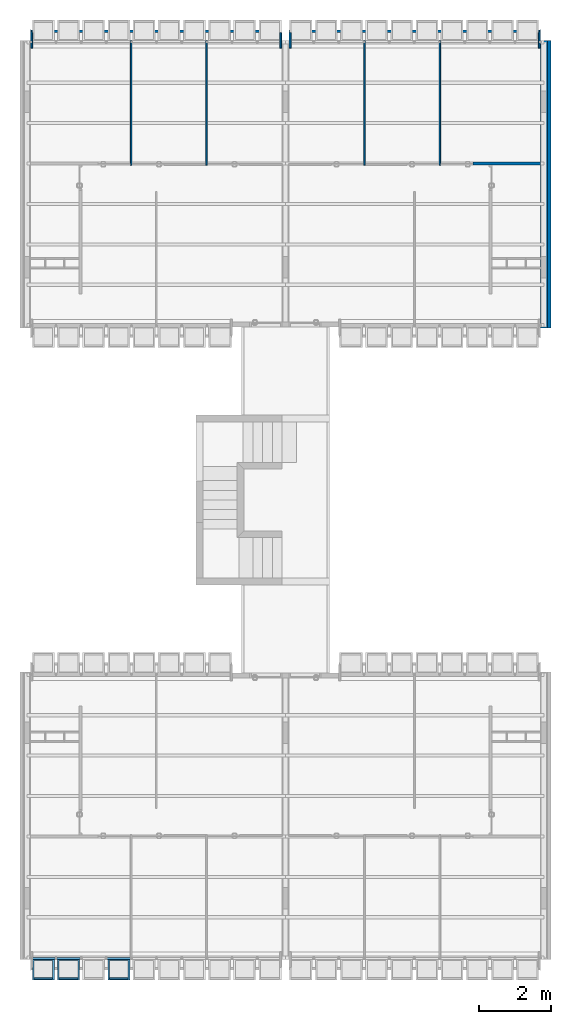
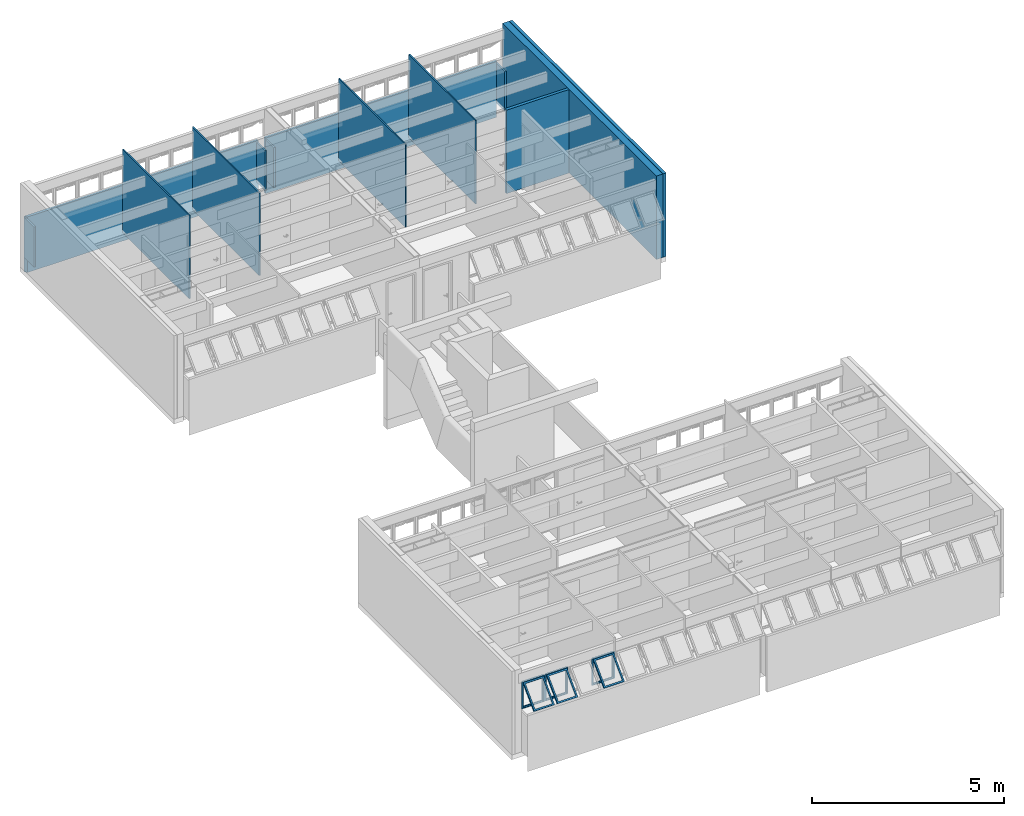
# One storey, part 25 of 37: 13 walls, 3 building element parts, 4 elements without a shape of their own.
"""IFC2X3 building model written with IfcOpenShell, lengths in millimetres."""

from ifc_helpers import new_model, entity, si_unit, converted_unit, derived_unit, money_unit, direction, frame, origin_with_axes, place, context, subcontext, project, spatial, polyline, outline, extrude, faceted_brep, source, transform, mapped, material, layer, layer_set, layer_usage, type_object, element, aggregate, save


model = new_model("IFC2X3")

# Units and contexts
model_context = context("Model", 3, precision=0.01, world=origin_with_axes(), true_north=direction((0.0, 1.0)))
body_context = subcontext(model_context, "Body", "Model", "MODEL_VIEW")
ifc_project = project(units=[si_unit("LENGTHUNIT", "METRE", prefix="MILLI"), si_unit("AREAUNIT", "SQUARE_METRE"), si_unit("VOLUMEUNIT", "CUBIC_METRE"), converted_unit("PLANEANGLEUNIT", "DEGREE", entity("IfcPlaneAngleMeasure", 0.0174532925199), si_unit("PLANEANGLEUNIT", "RADIAN"), dimensions=[0, 0, 0, 0, 0, 0, 0]), money_unit("USD"), converted_unit("TIMEUNIT", "Year", entity("IfcTimeMeasure", 31556926.0), si_unit("TIMEUNIT", "SECOND"), dimensions=[0, 0, 1, 0, 0, 0, 0]), si_unit("MASSUNIT", "GRAM", prefix="KILO"), si_unit("THERMODYNAMICTEMPERATUREUNIT", "DEGREE_CELSIUS"), si_unit("LUMINOUSINTENSITYUNIT", "LUMEN"), si_unit("ENERGYUNIT", "JOULE", prefix="MEGA"), derived_unit("THERMALCONDUCTANCEUNIT", [(si_unit("POWERUNIT", "WATT"), 1), (si_unit("LENGTHUNIT", "METRE"), -1), (si_unit("THERMODYNAMICTEMPERATUREUNIT", "KELVIN"), -1)]), derived_unit("SPECIFICHEATCAPACITYUNIT", [(si_unit("ENERGYUNIT", "JOULE"), 1), (si_unit("MASSUNIT", "GRAM", prefix="KILO"), -1), (si_unit("THERMODYNAMICTEMPERATUREUNIT", "KELVIN"), -1)]), derived_unit("MASSDENSITYUNIT", [(si_unit("MASSUNIT", "GRAM", prefix="KILO"), 1), (si_unit("VOLUMEUNIT", "CUBIC_METRE"), -1)])], contexts=[model_context])

# Site, building, storey
site_placement = place(None, origin_with_axes())
site = spatial("IfcSite", under=ifc_project, at=site_placement, Name="Local", CompositionType="ELEMENT")
building_placement = place(site_placement, origin_with_axes())
building = spatial("IfcBuilding", under=site, at=building_placement, Name="Construção", CompositionType="ELEMENT")
storey_placement = place(building_placement, origin_with_axes())
storey = spatial("IfcBuildingStorey", under=building, at=storey_placement, Name="Primeiro Pavimento", CompositionType="ELEMENT", Elevation=0.0)

# Walls
ifc_material_1 = material(Name="GENÉRICO - VEDAÇÃO EXTERNA")
ifc_layer_1 = layer(ifc_material_1, 190.0, ventilated="UNKNOWN")
ifc_layer_set_1 = layer_set([ifc_layer_1], Name="GENÉRICO - VEDAÇÃO EXTERNA 190")
ifc_layer_usage_1 = layer_usage(ifc_layer_set_1, "AXIS2", "NEGATIVE", 0.0)
wall_type_1 = type_object("IfcWallType", Name="GENÉRICO - VEDAÇÃO EXTERNA 190", PredefinedType="NOTDEFINED")
wall_1_placement = place(storey_placement, frame((14480.0, 17860.0, 0.0), z_axis=(0.0, 0.0, 1.0), x_axis=(0.0, 1.0, 0.0)))
element("IfcWallStandardCase", 1, at=wall_1_placement, inside=storey, type_object=wall_type_1, material=ifc_layer_usage_1, Name="APTO4-PAREDE-013", context=body_context, shape_type="SweptSolid", body=[
    extrude(outline(polyline([(0.0, -190.0), (8000.0, -190.0), (8000.0, 0.0), (0.0, 0.0), (0.0, -190.0)])), origin_with_axes(), (0.0, 0.0, 1.0), 2650.0),
])
ifc_layer_2 = layer(ifc_material_1, 40.0, ventilated="UNKNOWN")
ifc_layer_set_2 = layer_set([ifc_layer_2], Name="GENÉRICO - VEDAÇÃO EXTERNA 40")
ifc_layer_usage_2 = layer_usage(ifc_layer_set_2, "AXIS2", "NEGATIVE", 0.0)
wall_type_2 = type_object("IfcWallType", Name="GENÉRICO - VEDAÇÃO EXTERNA 40", PredefinedType="NOTDEFINED")
wall_2_placement = place(storey_placement, frame((9560.0, 22395.0, 0.0), z_axis=(0.0, 0.0, 1.0), x_axis=(0.0, 1.0, 0.0)))
element("IfcWallStandardCase", 2, at=wall_2_placement, inside=storey, type_object=wall_type_2, material=ifc_layer_usage_2, Name="APTO4-PAREDE-005", context=body_context, shape_type="SweptSolid", body=[
    extrude(outline(polyline([(0.0, -40.0), (3465.0, -40.0), (3465.0, 0.0), (0.0, 0.0), (0.0, -40.0)])), origin_with_axes(), (0.0, 0.0, 1.0), 2620.0),
])
ifc_layer_usage_3 = layer_usage(ifc_layer_set_2, "AXIS2", "NEGATIVE", 0.0)
wall_3_placement = place(storey_placement, frame((11660.0, 22395.0, 0.0), z_axis=(0.0, 0.0, 1.0), x_axis=(0.0, 1.0, 0.0)))
element("IfcWallStandardCase", 3, at=wall_3_placement, inside=storey, type_object=wall_type_2, material=ifc_layer_usage_3, Name="APTO4-PAREDE-007", context=body_context, shape_type="SweptSolid", body=[
    extrude(outline(polyline([(0.0, -40.0), (3465.0, -40.0), (3465.0, 0.0), (0.0, 0.0), (0.0, -40.0)])), origin_with_axes(), (0.0, 0.0, 1.0), 2650.0),
])
ifc_layer_usage_4 = layer_usage(ifc_layer_set_2, "AXIS2", "POSITIVE", 0.0)
wall_4_placement = place(storey_placement, frame((5210.0, 22395.0, 0.0), z_axis=(0.0, 0.0, 1.0), x_axis=(0.0, 1.0, 0.0)))
element("IfcWallStandardCase", 4, at=wall_4_placement, inside=storey, type_object=wall_type_2, material=ifc_layer_usage_4, Name="APTO3-PAREDE-005", context=body_context, shape_type="SweptSolid", body=[
    extrude(outline(polyline([(0.0, 0.0), (3465.0, 0.0), (3465.0, 40.0), (0.0, 40.0), (0.0, 0.0)])), origin_with_axes(), (0.0, 0.0, 1.0), 2620.0),
])
ifc_layer_usage_5 = layer_usage(ifc_layer_set_2, "AXIS2", "POSITIVE", 0.0)
wall_5_placement = place(storey_placement, frame((3110.0, 22395.0, 0.0), z_axis=(0.0, 0.0, 1.0), x_axis=(0.0, 1.0, 0.0)))
element("IfcWallStandardCase", 5, at=wall_5_placement, inside=storey, type_object=wall_type_2, material=ifc_layer_usage_5, Name="APTO3-PAREDE-007", context=body_context, shape_type="SweptSolid", body=[
    extrude(outline(polyline([(0.0, 0.0), (3465.0, 0.0), (3465.0, 40.0), (0.0, 40.0), (0.0, 0.0)])), origin_with_axes(), (0.0, 0.0, 1.0), 2650.0),
])
ifc_layer_3 = layer(ifc_material_1, 90.0, ventilated="UNKNOWN")
ifc_layer_set_3 = layer_set([ifc_layer_3], Name="GENÉRICO - VEDAÇÃO EXTERNA 90")
ifc_layer_usage_6 = layer_usage(ifc_layer_set_3, "AXIS2", "NEGATIVE", 0.0)
wall_type_3 = type_object("IfcWallType", Name="GENÉRICO - VEDAÇÃO EXTERNA 90", PredefinedType="NOTDEFINED")
wall_6_placement = place(storey_placement, frame((14680.0, 17860.0, 0.0), z_axis=(0.0, 0.0, 1.0), x_axis=(0.0, 1.0, 0.0)))
element("IfcWallStandardCase", 6, at=wall_6_placement, inside=storey, type_object=wall_type_3, material=ifc_layer_usage_6, Name="APTO4-PAREDE-014", context=body_context, shape_type="SweptSolid", body=[
    extrude(outline(polyline([(0.0, -90.0), (8000.0, -90.0), (8000.0, 0.0), (0.0, 0.0), (0.0, -90.0)])), origin_with_axes(), (0.0, 0.0, 1.0), 2650.0),
])
ifc_layer_usage_7 = layer_usage(ifc_layer_set_3, "AXIS2", "NEGATIVE", 0.0)
wall_7_placement = place(storey_placement, frame((14480.0, 22394.7804333, 0.0), z_axis=(0.0, 0.0, 1.0), x_axis=(-1.0, 0.0, 0.0)))
element("IfcWallStandardCase", 7, at=wall_7_placement, inside=storey, type_object=wall_type_3, material=ifc_layer_usage_7, Name="APTO4-PAREDE-019", context=body_context, shape_type="SweptSolid", body=[
    extrude(outline(polyline([(0.0, -90.0), (1879.99807021, -90.0), (1880.0, 0.0), (0.0, 0.0), (0.0, -90.0)])), origin_with_axes(), (0.0, 0.0, 1.0), 2650.0),
])
ifc_material_2 = material(Name="Concreto Armado Moldado in Loco - Estrutural")
ifc_layer_4 = layer(ifc_material_2, 50.0, ventilated="UNKNOWN")
ifc_layer_set_4 = layer_set([ifc_layer_4], Name="Concreto Armado Moldado in Loco - Estrutural 50")
ifc_layer_usage_8 = layer_usage(ifc_layer_set_4, "AXIS2", "NEGATIVE", 50.0)
wall_type_4 = type_object("IfcWallType", Name="Concreto Armado Moldado in Loco - Estrutural 50", PredefinedType="NOTDEFINED")
wall_8_placement = place(storey_placement, frame((14470.0, 25650.0, 0.0), z_axis=(0.0, 0.0, 1.0), x_axis=(0.0, 1.0, 0.0)))
element("IfcWallStandardCase", 8, at=wall_8_placement, inside=storey, type_object=wall_type_4, material=ifc_layer_usage_8, Name="APTO4-PAREDE-002", context=body_context, shape_type="SweptSolid", body=[
    extrude(outline(polyline([(0.0, 0.0), (510.0, 0.0), (430.0, 50.0), (0.0, 50.0), (0.0, 0.0)])), origin_with_axes(), (0.0, 0.0, 1.0), 1270.0),
])
ifc_layer_usage_9 = layer_usage(ifc_layer_set_4, "AXIS2", "NEGATIVE", 50.0)
wall_9_placement = place(storey_placement, frame((7540.0, 25650.0, 0.0), z_axis=(0.0, 0.0, 1.0), x_axis=(0.0, 1.0, 0.0)))
element("IfcWallStandardCase", 9, at=wall_9_placement, inside=storey, type_object=wall_type_4, material=ifc_layer_usage_9, Name="APTO4-PAREDE-001", context=body_context, shape_type="SweptSolid", body=[
    extrude(outline(polyline([(0.0, 0.0), (435.0, 0.0), (435.0, 50.0), (0.0, 50.0), (0.0, 0.0)])), origin_with_axes(), (0.0, 0.0, 1.0), 1270.0),
])
ifc_layer_usage_10 = layer_usage(ifc_layer_set_4, "AXIS2", "POSITIVE", -50.0)
wall_10_placement = place(storey_placement, frame((300.0, 25650.0, 0.0), z_axis=(0.0, 0.0, 1.0), x_axis=(0.0, 1.0, 0.0)))
element("IfcWallStandardCase", 10, at=wall_10_placement, inside=storey, type_object=wall_type_4, material=ifc_layer_usage_10, Name="APTO3-PAREDE-002", context=body_context, shape_type="SweptSolid", body=[
    extrude(outline(polyline([(0.0, -50.0), (430.0, -50.0), (510.0, 0.0), (0.0, 0.0), (0.0, -50.0)])), origin_with_axes(), (0.0, 0.0, 1.0), 1270.0),
])
ifc_layer_usage_11 = layer_usage(ifc_layer_set_4, "AXIS2", "POSITIVE", -50.0)
wall_11_placement = place(storey_placement, frame((7230.0, 25650.0, 0.0), z_axis=(0.0, 0.0, 1.0), x_axis=(0.0, 1.0, 0.0)))
element("IfcWallStandardCase", 11, at=wall_11_placement, inside=storey, type_object=wall_type_4, material=ifc_layer_usage_11, Name="APTO3-PAREDE-001", context=body_context, shape_type="SweptSolid", body=[
    extrude(outline(polyline([(0.0, -50.0), (435.0, -50.0), (435.0, 0.0), (0.0, 0.0), (0.0, -50.0)])), origin_with_axes(), (0.0, 0.0, 1.0), 1270.0),
])
ifc_layer_5 = layer(ifc_material_2, 80.0, ventilated="UNKNOWN")
ifc_layer_set_5 = layer_set([ifc_layer_5], Name="Concreto Armado Moldado in Loco - Estrutural 80")
ifc_layer_usage_12 = layer_usage(ifc_layer_set_5, "AXIS2", "POSITIVE", -80.0)
wall_type_5 = type_object("IfcWallType", Name="Concreto Armado Moldado in Loco - Estrutural 80", PredefinedType="NOTDEFINED")
wall_12_placement = place(storey_placement, frame((14470.0, 26080.0, -450.0), z_axis=(0.0, 0.0, 1.0), x_axis=(-1.0, 0.0, 0.0)))
element("IfcWallStandardCase", 12, at=wall_12_placement, inside=storey, type_object=wall_type_5, material=ifc_layer_usage_12, Name="APTO4-PAREDE-015", context=body_context, shape_type="SweptSolid", body=[
    extrude(outline(polyline([(0.0, -80.0), (6980.0, -80.0), (6980.0, 0.0), (50.0, 0.0), (0.0, -80.0)])), origin_with_axes(), (0.0, 0.0, 1.0), 1765.0),
])
ifc_layer_usage_13 = layer_usage(ifc_layer_set_5, "AXIS2", "NEGATIVE", 80.0)
wall_13_placement = place(storey_placement, frame((300.0, 26080.0, -450.0), z_axis=(0.0, 0.0, 1.0), x_axis=(1.0, 0.0, 0.0)))
element("IfcWallStandardCase", 13, at=wall_13_placement, inside=storey, type_object=wall_type_5, material=ifc_layer_usage_13, Name="APTO3-PAREDE-015", context=body_context, shape_type="SweptSolid", body=[
    extrude(outline(polyline([(50.0, 0.0), (6980.0, 0.0), (6980.0, 80.0), (0.0, 80.0), (50.0, 0.0)])), origin_with_axes(), (0.0, 0.0, 1.0), 1765.0),
])

# Window, plates, building element parts
window_style = type_object("IfcWindowStyle", Name="Tipo de Parede Cortina", ConstructionType="NOTDEFINED", OperationType="NOTDEFINED", ParameterTakesPrecedence=False, Sizeable=False)
window_placement = place(storey_placement, frame((294.999984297, 315.020977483, 1355.02054151), z_axis=(0.0, 0.0, 1.0), x_axis=(1.0, 0.0, 0.0)))
window = element("IfcWindow", 14, at=window_placement, inside=storey, type_object=window_style, Name="APTO1-JANELA-001")
plate_type = type_object("IfcPlateType", Name="Painel Principal 690 x 845 x 20", PredefinedType="CURTAIN_PANEL")
plate_1_placement = place(window_placement, frame((2455.0000157, 0.0, 422.499945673), z_axis=(0.0, 0.0, 1.0), x_axis=(-1.0, 0.0, 0.0)))
plate_1 = element("IfcPlate", 15, at=plate_1_placement, type_object=plate_type, Name="APTO1-Painel-Prin-013")
ifc_material_3 = material(Name="Alumínio")
shared_shape_1 = source(origin_with_axes(), body_context, "Body", "Brep", [
    faceted_brep([(25.0000036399, 0.0, -40.0), (674.999997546, 0.0, -40.0), (674.999997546, 0.0, -35.0), (25.0000036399, 0.0, -35.0), (70.0000036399, 45.0, -40.0), (629.999997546, 45.0, -40.0), (629.999997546, 45.0, -35.0), (70.0000036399, 45.0, -35.0)], [[[0, 1, 2, 3]], [[0, 4, 5, 1]], [[1, 5, 6, 2]], [[3, 2, 6, 7]], [[4, 0, 3, 7]], [[5, 4, 7, 6]]]),
    faceted_brep([(674.999997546, 0.0, -40.0), (674.999997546, 844.999891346, -40.0), (674.999997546, 844.999891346, -35.0), (674.999997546, 0.0, -35.0), (629.999997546, 45.0, -40.0), (629.999997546, 799.999891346, -40.0), (629.999997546, 799.999891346, -35.0), (629.999997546, 45.0, -35.0)], [[[0, 1, 2, 3]], [[0, 4, 5, 1]], [[1, 5, 6, 2]], [[3, 2, 6, 7]], [[4, 0, 3, 7]], [[5, 4, 7, 6]]]),
    faceted_brep([(25.0000036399, 844.999891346, -40.0), (70.0000036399, 799.999891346, -40.0), (70.0000036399, 799.999891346, -35.0), (25.0000036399, 844.999891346, -35.0), (674.999997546, 844.999891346, -40.0), (629.999997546, 799.999891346, -40.0), (629.999997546, 799.999891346, -35.0), (674.999997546, 844.999891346, -35.0)], [[[0, 1, 2, 3]], [[0, 4, 5, 1]], [[1, 5, 6, 2]], [[3, 2, 6, 7]], [[4, 0, 3, 7]], [[5, 4, 7, 6]]]),
    faceted_brep([(25.0000036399, 0.0, -40.0), (70.0000036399, 45.0, -40.0), (70.0000036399, 45.0, -35.0), (25.0000036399, 0.0, -35.0), (25.0000036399, 844.999891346, -40.0), (70.0000036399, 799.999891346, -40.0), (70.0000036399, 799.999891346, -35.0), (25.0000036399, 844.999891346, -35.0)], [[[0, 1, 2, 3]], [[0, 4, 5, 1]], [[1, 5, 6, 2]], [[3, 2, 6, 7]], [[4, 0, 3, 7]], [[5, 4, 7, 6]]]),
    faceted_brep([(25.0000036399, 0.0, -35.0), (674.999997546, 0.0, -35.0), (674.999997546, 0.0, 15.0), (25.0000036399, 0.0, 15.0), (45.0000036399, 20.0, -35.0), (654.999997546, 20.0, -35.0), (654.999997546, 20.0, 15.0), (45.0000036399, 20.0, 15.0)], [[[0, 1, 2, 3]], [[0, 4, 5, 1]], [[1, 5, 6, 2]], [[3, 2, 6, 7]], [[4, 0, 3, 7]], [[5, 4, 7, 6]]]),
    faceted_brep([(674.999997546, 0.0, -35.0), (674.999997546, 844.999891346, -35.0), (674.999997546, 844.999891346, 15.0), (674.999997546, 0.0, 15.0), (654.999997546, 20.0, -35.0), (654.999997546, 824.999891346, -35.0), (654.999997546, 824.999891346, 15.0), (654.999997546, 20.0, 15.0)], [[[0, 1, 2, 3]], [[0, 4, 5, 1]], [[1, 5, 6, 2]], [[3, 2, 6, 7]], [[4, 0, 3, 7]], [[5, 4, 7, 6]]]),
    faceted_brep([(25.0000036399, 844.999891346, -35.0), (45.0000036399, 824.999891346, -35.0), (45.0000036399, 824.999891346, 15.0), (25.0000036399, 844.999891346, 15.0), (674.999997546, 844.999891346, -35.0), (654.999997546, 824.999891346, -35.0), (654.999997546, 824.999891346, 15.0), (674.999997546, 844.999891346, 15.0)], [[[0, 1, 2, 3]], [[0, 4, 5, 1]], [[1, 5, 6, 2]], [[3, 2, 6, 7]], [[4, 0, 3, 7]], [[5, 4, 7, 6]]]),
    faceted_brep([(25.0000036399, 0.0, -35.0), (45.0000036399, 20.0, -35.0), (45.0000036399, 20.0, 15.0), (25.0000036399, 0.0, 15.0), (25.0000036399, 844.999891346, -35.0), (45.0000036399, 824.999891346, -35.0), (45.0000036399, 824.999891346, 15.0), (25.0000036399, 844.999891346, 15.0)], [[[0, 1, 2, 3]], [[0, 4, 5, 1]], [[1, 5, 6, 2]], [[3, 2, 6, 7]], [[4, 0, 3, 7]], [[5, 4, 7, 6]]]),
    faceted_brep([(694.999995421, 0.0, -10.0), (694.999995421, 844.999891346, -10.0), (694.999995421, 844.999891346, 10.0), (694.999995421, 0.0, 10.0), (674.999997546, 0.0, -10.0), (674.999997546, 844.999891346, -10.0), (674.999997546, 844.999891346, 10.0), (674.999997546, 0.0, 10.0)], [[[0, 1, 2, 3]], [[0, 4, 5, 1]], [[1, 5, 6, 2]], [[3, 2, 6, 7]], [[4, 0, 3, 7]], [[5, 4, 7, 6]]]),
    faceted_brep([(5.00000576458, 844.999891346, -10.0), (5.00000576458, 0.0, -10.0), (5.00000576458, 0.0, 10.0), (5.00000576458, 844.999891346, 10.0), (25.0000036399, 844.999891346, -10.0), (25.0000036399, 0.0, -10.0), (25.0000036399, 0.0, 10.0), (25.0000036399, 844.999891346, 10.0)], [[[0, 1, 2, 3]], [[0, 4, 5, 1]], [[1, 5, 6, 2]], [[3, 2, 6, 7]], [[4, 0, 3, 7]], [[5, 4, 7, 6]]]),
    faceted_brep([(90.0000036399, 252.243475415, 517.045737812), (90.0000036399, 757.824747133, 11.4644660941), (90.0000036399, 796.715620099, 50.3553390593), (90.0000036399, 291.13434838, 555.936610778), (45.0000036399, 220.423670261, 548.865542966), (45.0000036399, 789.644552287, -20.3553390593), (45.0000036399, 828.535425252, 18.5355339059), (45.0000036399, 259.314543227, 587.756415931)], [[[0, 1, 2, 3]], [[0, 4, 5, 1]], [[1, 5, 6, 2]], [[3, 2, 6, 7]], [[4, 0, 3, 7]], [[5, 4, 7, 6]]]),
    faceted_brep([(654.999997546, 220.423670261, 548.865542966), (654.999997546, 789.644552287, -20.3553390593), (654.999997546, 828.535425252, 18.5355339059), (654.999997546, 259.314543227, 587.756415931), (609.999997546, 252.243475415, 517.045737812), (609.999997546, 757.824747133, 11.4644660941), (609.999997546, 796.715620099, 50.3553390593), (609.999997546, 291.13434838, 555.936610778)], [[[0, 1, 2, 3]], [[0, 4, 5, 1]], [[1, 5, 6, 2]], [[3, 2, 6, 7]], [[4, 0, 3, 7]], [[5, 4, 7, 6]]]),
    faceted_brep([(654.999997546, 220.423670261, 548.865542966), (609.999997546, 252.243475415, 517.045737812), (609.999997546, 291.13434838, 555.936610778), (654.999997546, 259.314543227, 587.756415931), (45.0000036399, 220.423670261, 548.865542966), (90.0000036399, 252.243475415, 517.045737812), (90.0000036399, 291.13434838, 555.936610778), (45.0000036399, 259.314543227, 587.756415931)], [[[0, 1, 2, 3]], [[0, 4, 5, 1]], [[1, 5, 6, 2]], [[3, 2, 6, 7]], [[4, 0, 3, 7]], [[5, 4, 7, 6]]]),
    faceted_brep([(45.0000036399, 789.644552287, -20.3553390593), (90.0000036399, 757.824747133, 11.4644660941), (90.0000036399, 796.715620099, 50.3553390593), (45.0000036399, 828.535425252, 18.5355339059), (654.999997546, 789.644552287, -20.3553390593), (609.999997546, 757.824747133, 11.4644660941), (609.999997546, 796.715620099, 50.3553390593), (654.999997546, 828.535425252, 18.5355339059)], [[[0, 1, 2, 3]], [[0, 4, 5, 1]], [[1, 5, 6, 2]], [[3, 2, 6, 7]], [[4, 0, 3, 7]], [[5, 4, 7, 6]]]),
])
building_element_part_1_placement = place(plate_1_placement, origin_with_axes())
building_element_part_1 = element("IfcBuildingElementPart", 16, at=building_element_part_1_placement, material=ifc_material_3, Name="Alumínio", context=body_context, shape_type="MappedRepresentation", body=[
    mapped(shared_shape_1, transform((350.0, 0.0, -422.499945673), x_axis=(-1.0, 0.0, 0.0), y_axis=(0.0, 0.0, 1.0), z_axis=(0.0, 1.0, 0.0))),
])
aggregate(plate_1, [building_element_part_1])
plate_2_placement = place(window_placement, frame((1055.0000157, 0.0, 422.499945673), z_axis=(0.0, 0.0, 1.0), x_axis=(-1.0, 0.0, 0.0)))
plate_2 = element("IfcPlate", 17, at=plate_2_placement, type_object=plate_type, Name="APTO1-Painel-Prin-013")
shared_shape_2 = source(origin_with_axes(), body_context, "Body", "Brep", [
    faceted_brep([(25.0000036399, 0.0, -40.0), (674.999997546, 0.0, -40.0), (674.999997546, 0.0, -35.0), (25.0000036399, 0.0, -35.0), (70.0000036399, 45.0, -40.0), (629.999997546, 45.0, -40.0), (629.999997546, 45.0, -35.0), (70.0000036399, 45.0, -35.0)], [[[0, 1, 2, 3]], [[0, 4, 5, 1]], [[1, 5, 6, 2]], [[3, 2, 6, 7]], [[4, 0, 3, 7]], [[5, 4, 7, 6]]]),
    faceted_brep([(674.999997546, 0.0, -40.0), (674.999997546, 844.999891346, -40.0), (674.999997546, 844.999891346, -35.0), (674.999997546, 0.0, -35.0), (629.999997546, 45.0, -40.0), (629.999997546, 799.999891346, -40.0), (629.999997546, 799.999891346, -35.0), (629.999997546, 45.0, -35.0)], [[[0, 1, 2, 3]], [[0, 4, 5, 1]], [[1, 5, 6, 2]], [[3, 2, 6, 7]], [[4, 0, 3, 7]], [[5, 4, 7, 6]]]),
    faceted_brep([(25.0000036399, 844.999891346, -40.0), (70.0000036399, 799.999891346, -40.0), (70.0000036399, 799.999891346, -35.0), (25.0000036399, 844.999891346, -35.0), (674.999997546, 844.999891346, -40.0), (629.999997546, 799.999891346, -40.0), (629.999997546, 799.999891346, -35.0), (674.999997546, 844.999891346, -35.0)], [[[0, 1, 2, 3]], [[0, 4, 5, 1]], [[1, 5, 6, 2]], [[3, 2, 6, 7]], [[4, 0, 3, 7]], [[5, 4, 7, 6]]]),
    faceted_brep([(25.0000036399, 0.0, -40.0), (70.0000036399, 45.0, -40.0), (70.0000036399, 45.0, -35.0), (25.0000036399, 0.0, -35.0), (25.0000036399, 844.999891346, -40.0), (70.0000036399, 799.999891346, -40.0), (70.0000036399, 799.999891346, -35.0), (25.0000036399, 844.999891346, -35.0)], [[[0, 1, 2, 3]], [[0, 4, 5, 1]], [[1, 5, 6, 2]], [[3, 2, 6, 7]], [[4, 0, 3, 7]], [[5, 4, 7, 6]]]),
    faceted_brep([(25.0000036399, 0.0, -35.0), (674.999997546, 0.0, -35.0), (674.999997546, 0.0, 15.0), (25.0000036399, 0.0, 15.0), (45.0000036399, 20.0, -35.0), (654.999997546, 20.0, -35.0), (654.999997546, 20.0, 15.0), (45.0000036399, 20.0, 15.0)], [[[0, 1, 2, 3]], [[0, 4, 5, 1]], [[1, 5, 6, 2]], [[3, 2, 6, 7]], [[4, 0, 3, 7]], [[5, 4, 7, 6]]]),
    faceted_brep([(674.999997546, 0.0, -35.0), (674.999997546, 844.999891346, -35.0), (674.999997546, 844.999891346, 15.0), (674.999997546, 0.0, 15.0), (654.999997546, 20.0, -35.0), (654.999997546, 824.999891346, -35.0), (654.999997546, 824.999891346, 15.0), (654.999997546, 20.0, 15.0)], [[[0, 1, 2, 3]], [[0, 4, 5, 1]], [[1, 5, 6, 2]], [[3, 2, 6, 7]], [[4, 0, 3, 7]], [[5, 4, 7, 6]]]),
    faceted_brep([(25.0000036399, 844.999891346, -35.0), (45.0000036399, 824.999891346, -35.0), (45.0000036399, 824.999891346, 15.0), (25.0000036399, 844.999891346, 15.0), (674.999997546, 844.999891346, -35.0), (654.999997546, 824.999891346, -35.0), (654.999997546, 824.999891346, 15.0), (674.999997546, 844.999891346, 15.0)], [[[0, 1, 2, 3]], [[0, 4, 5, 1]], [[1, 5, 6, 2]], [[3, 2, 6, 7]], [[4, 0, 3, 7]], [[5, 4, 7, 6]]]),
    faceted_brep([(25.0000036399, 0.0, -35.0), (45.0000036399, 20.0, -35.0), (45.0000036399, 20.0, 15.0), (25.0000036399, 0.0, 15.0), (25.0000036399, 844.999891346, -35.0), (45.0000036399, 824.999891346, -35.0), (45.0000036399, 824.999891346, 15.0), (25.0000036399, 844.999891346, 15.0)], [[[0, 1, 2, 3]], [[0, 4, 5, 1]], [[1, 5, 6, 2]], [[3, 2, 6, 7]], [[4, 0, 3, 7]], [[5, 4, 7, 6]]]),
    faceted_brep([(694.999995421, 0.0, -10.0), (694.999995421, 844.999891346, -10.0), (694.999995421, 844.999891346, 10.0), (694.999995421, 0.0, 10.0), (674.999997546, 0.0, -10.0), (674.999997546, 844.999891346, -10.0), (674.999997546, 844.999891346, 10.0), (674.999997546, 0.0, 10.0)], [[[0, 1, 2, 3]], [[0, 4, 5, 1]], [[1, 5, 6, 2]], [[3, 2, 6, 7]], [[4, 0, 3, 7]], [[5, 4, 7, 6]]]),
    faceted_brep([(5.00000576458, 844.999891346, -10.0), (5.00000576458, 0.0, -10.0), (5.00000576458, 0.0, 10.0), (5.00000576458, 844.999891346, 10.0), (25.0000036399, 844.999891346, -10.0), (25.0000036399, 0.0, -10.0), (25.0000036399, 0.0, 10.0), (25.0000036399, 844.999891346, 10.0)], [[[0, 1, 2, 3]], [[0, 4, 5, 1]], [[1, 5, 6, 2]], [[3, 2, 6, 7]], [[4, 0, 3, 7]], [[5, 4, 7, 6]]]),
    faceted_brep([(90.0000036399, 252.243475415, 517.045737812), (90.0000036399, 757.824747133, 11.4644660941), (90.0000036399, 796.715620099, 50.3553390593), (90.0000036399, 291.13434838, 555.936610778), (45.0000036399, 220.423670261, 548.865542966), (45.0000036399, 789.644552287, -20.3553390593), (45.0000036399, 828.535425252, 18.5355339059), (45.0000036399, 259.314543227, 587.756415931)], [[[0, 1, 2, 3]], [[0, 4, 5, 1]], [[1, 5, 6, 2]], [[3, 2, 6, 7]], [[4, 0, 3, 7]], [[5, 4, 7, 6]]]),
    faceted_brep([(654.999997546, 220.423670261, 548.865542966), (654.999997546, 789.644552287, -20.3553390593), (654.999997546, 828.535425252, 18.5355339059), (654.999997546, 259.314543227, 587.756415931), (609.999997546, 252.243475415, 517.045737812), (609.999997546, 757.824747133, 11.4644660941), (609.999997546, 796.715620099, 50.3553390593), (609.999997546, 291.13434838, 555.936610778)], [[[0, 1, 2, 3]], [[0, 4, 5, 1]], [[1, 5, 6, 2]], [[3, 2, 6, 7]], [[4, 0, 3, 7]], [[5, 4, 7, 6]]]),
    faceted_brep([(654.999997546, 220.423670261, 548.865542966), (609.999997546, 252.243475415, 517.045737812), (609.999997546, 291.13434838, 555.936610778), (654.999997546, 259.314543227, 587.756415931), (45.0000036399, 220.423670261, 548.865542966), (90.0000036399, 252.243475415, 517.045737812), (90.0000036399, 291.13434838, 555.936610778), (45.0000036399, 259.314543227, 587.756415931)], [[[0, 1, 2, 3]], [[0, 4, 5, 1]], [[1, 5, 6, 2]], [[3, 2, 6, 7]], [[4, 0, 3, 7]], [[5, 4, 7, 6]]]),
    faceted_brep([(45.0000036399, 789.644552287, -20.3553390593), (90.0000036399, 757.824747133, 11.4644660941), (90.0000036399, 796.715620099, 50.3553390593), (45.0000036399, 828.535425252, 18.5355339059), (654.999997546, 789.644552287, -20.3553390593), (609.999997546, 757.824747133, 11.4644660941), (609.999997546, 796.715620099, 50.3553390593), (654.999997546, 828.535425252, 18.5355339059)], [[[0, 1, 2, 3]], [[0, 4, 5, 1]], [[1, 5, 6, 2]], [[3, 2, 6, 7]], [[4, 0, 3, 7]], [[5, 4, 7, 6]]]),
])
building_element_part_2_placement = place(plate_2_placement, origin_with_axes())
building_element_part_2 = element("IfcBuildingElementPart", 18, at=building_element_part_2_placement, material=ifc_material_3, Name="Alumínio", context=body_context, shape_type="MappedRepresentation", body=[
    mapped(shared_shape_2, transform((350.0, 0.0, -422.499945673), x_axis=(-1.0, 0.0, 0.0), y_axis=(0.0, 0.0, 1.0), z_axis=(0.0, 1.0, 0.0))),
])
aggregate(plate_2, [building_element_part_2])
plate_3_placement = place(window_placement, frame((355.000015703, 0.0, 422.499945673), z_axis=(0.0, 0.0, 1.0), x_axis=(-1.0, 0.0, 0.0)))
plate_3 = element("IfcPlate", 19, at=plate_3_placement, type_object=plate_type, Name="APTO1-Painel-Prin-013")
aggregate(window, [plate_1, plate_2, plate_3])
building_element_part_3_placement = place(plate_3_placement, origin_with_axes())
building_element_part_3 = element("IfcBuildingElementPart", 20, at=building_element_part_3_placement, material=ifc_material_3, Name="Alumínio", context=body_context, shape_type="MappedRepresentation", body=[
    mapped(shared_shape_2, transform((350.0, 0.0, -422.499945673), x_axis=(-1.0, 0.0, 0.0), y_axis=(0.0, 0.0, 1.0), z_axis=(0.0, 1.0, 0.0))),
])
aggregate(plate_3, [building_element_part_3])

save(model, "model.ifc")
